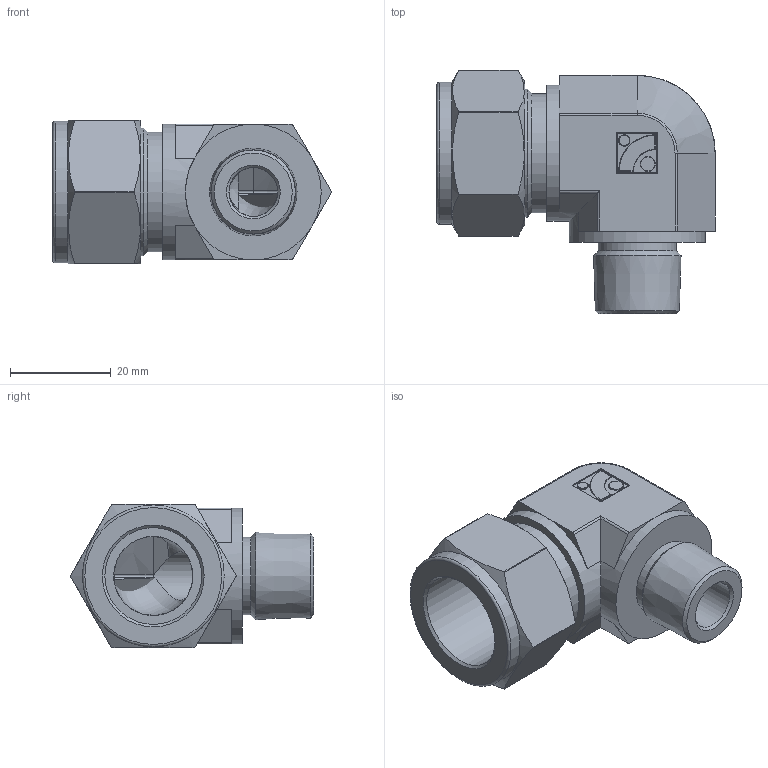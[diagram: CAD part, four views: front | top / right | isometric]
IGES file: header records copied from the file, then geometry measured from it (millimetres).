
Global section: file name: No Iges File Name specified; native system: Autodesk Inventor 2012; preprocessor: AutoDesk Inventor Iges Exporter R2012; author: 硅己绕,, ; organization: 11; date: 20150703.114345; units: millimetre
Bounding box: 55.41 x 48.4 x 28.6 mm (x, y, z)
Volume: 26608.9 mm3; surface area: 10332.4 mm2
Topology: 1 solids, 1 shells, 130 faces, 292 edges, 169 vertices
Faces by surface type: plane 42, cylinder 35, revolution 29, torus 12, cone 8, sphere 4
Full cylindrical faces by diameter (mm): 2.16 x1, 2.88 x1, 15.5 x1, 23.7 x1, 25.4 x1, 27 x2, 28.2 x1
